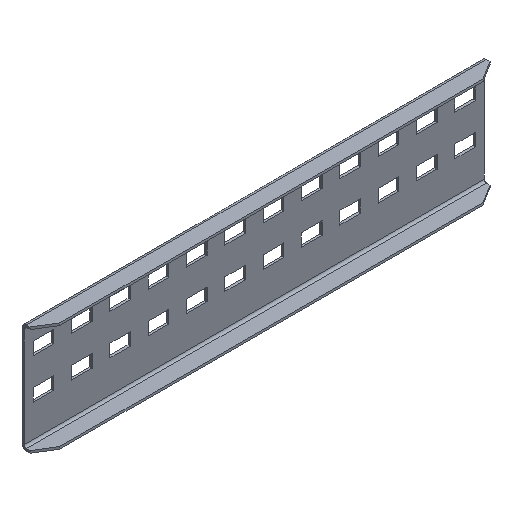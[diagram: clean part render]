
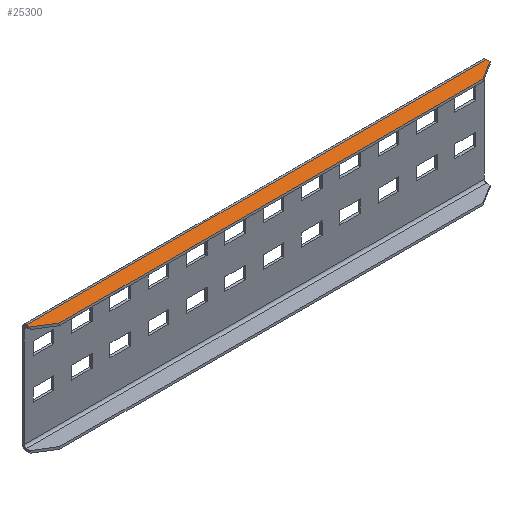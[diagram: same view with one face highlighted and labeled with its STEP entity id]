
A CAD part, isometric view. The second image highlights one B-rep face of the part: STEP entity #25300.
In plain terms, the highlighted planar face has unit normal (0, 0, 1) as drawn and (0, 1, 0) by its records, which use the part's own axes.
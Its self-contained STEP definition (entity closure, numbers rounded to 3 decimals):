
#620=CARTESIAN_POINT('',(0.,95.5,5.002));
#630=DIRECTION('',(-0.848,0.,-0.53));
#640=VECTOR('',#630,1.);
#650=LINE('',#620,#640);
#660=CARTESIAN_POINT('',(16.,95.5,15.));
#670=VERTEX_POINT('',#660);
#680=CARTESIAN_POINT('',(0.,95.5,5.002));
#690=VERTEX_POINT('',#680);
#700=EDGE_CURVE('',#670,#690,#650,.T.);
#23180=CARTESIAN_POINT('',(399.6,95.5,5.002));
#23190=VERTEX_POINT('',#23180);
#23220=CARTESIAN_POINT('',(399.6,95.5,-93.663));
#23230=DIRECTION('',(0.,0.,-1.));
#23240=VECTOR('',#23230,1.);
#23250=LINE('',#23220,#23240);
#23260=CARTESIAN_POINT('',(399.6,95.5,2.));
#23270=VERTEX_POINT('',#23260);
#23280=EDGE_CURVE('',#23190,#23270,#23250,.T.);
#24210=CARTESIAN_POINT('',(0.,95.5,2.));
#24220=VERTEX_POINT('',#24210);
#24250=CARTESIAN_POINT('',(0.,95.5,-93.663));
#24260=DIRECTION('',(0.,0.,-1.));
#24270=VECTOR('',#24260,1.);
#24280=LINE('',#24250,#24270);
#24290=EDGE_CURVE('',#690,#24220,#24280,.T.);
#24640=CARTESIAN_POINT('',(0.,95.5,15.));
#24650=DIRECTION('',(-1.,0.,0.));
#24660=VECTOR('',#24650,1.);
#24670=LINE('',#24640,#24660);
#24680=CARTESIAN_POINT('',(383.6,95.5,15.));
#24690=VERTEX_POINT('',#24680);
#24700=EDGE_CURVE('',#24690,#670,#24670,.T.);
#25070=CARTESIAN_POINT('',(-50.,95.5,-93.663));
#25080=DIRECTION('',(-0.,1.,0.));
#25090=DIRECTION('',(1.,0.,0.));
#25100=AXIS2_PLACEMENT_3D('',#25070,#25080,#25090);
#25110=PLANE('',#25100);
#25120=ORIENTED_EDGE('',*,*,#24290,.F.);
#25130=CARTESIAN_POINT('',(0.,95.5,2.));
#25140=DIRECTION('',(1.,0.,0.));
#25150=VECTOR('',#25140,1.);
#25160=LINE('',#25130,#25150);
#25170=EDGE_CURVE('',#24220,#23270,#25160,.T.);
#25180=ORIENTED_EDGE('',*,*,#25170,.F.);
#25190=ORIENTED_EDGE('',*,*,#23280,.T.);
#25200=CARTESIAN_POINT('',(0.,95.5,254.7));
#25210=DIRECTION('',(-0.848,0.,0.53));
#25220=VECTOR('',#25210,1.);
#25230=LINE('',#25200,#25220);
#25240=EDGE_CURVE('',#23190,#24690,#25230,.T.);
#25250=ORIENTED_EDGE('',*,*,#25240,.F.);
#25260=ORIENTED_EDGE('',*,*,#24700,.F.);
#25270=ORIENTED_EDGE('',*,*,#700,.F.);
#25280=EDGE_LOOP('',(#25270,#25260,#25250,#25190,#25180,#25120));
#25290=FACE_OUTER_BOUND('',#25280,.T.);
#25300=ADVANCED_FACE('',(#25290),#25110,.T.);
